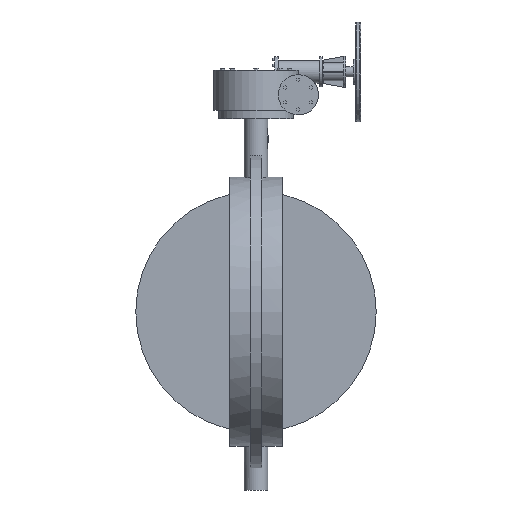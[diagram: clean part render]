
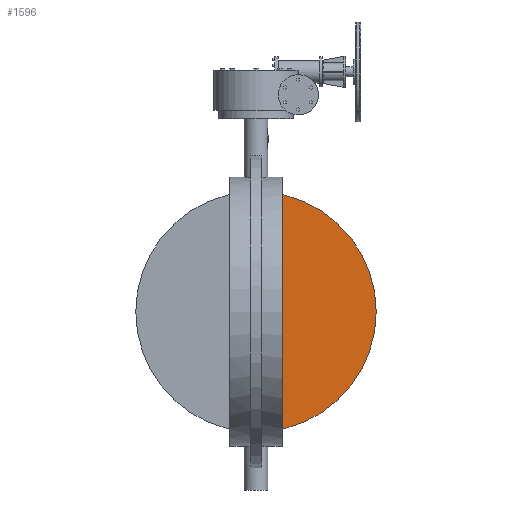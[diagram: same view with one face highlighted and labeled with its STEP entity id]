
A CAD part, front view. The second image highlights one B-rep face of the part: STEP entity #1596.
In plain terms, the highlighted planar face has unit normal (0, -1, 0).
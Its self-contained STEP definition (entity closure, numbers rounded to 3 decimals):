
#1596=ADVANCED_FACE('',(#7580),#7582,.T.);
#7580=FACE_BOUND('',#7581,.T.);
#7581=EDGE_LOOP('',(#11806,#11807));
#7582=PLANE('',#7583);
#7583=AXIS2_PLACEMENT_3D('',#7584,#7585,#7586);
#7584=CARTESIAN_POINT('',(0.,-10.,0.));
#7585=DIRECTION('',(0.,-1.,0.));
#7586=DIRECTION('',(0.,0.,1.));
#11806=ORIENTED_EDGE('',*,*,#14223,.T.);
#11807=ORIENTED_EDGE('',*,*,#14315,.T.);
#14223=EDGE_CURVE('',#15928,#15925,#15929,.T.);
#14315=EDGE_CURVE('',#15925,#15928,#16110,.T.);
#15925=VERTEX_POINT('',#20046);
#15928=VERTEX_POINT('',#20088);
#15929=LINE('',#20089,#20090);
#16110=CIRCLE('',#20574,482.5);
#20046=CARTESIAN_POINT('',(36.142,-10.,-481.144));
#20088=CARTESIAN_POINT('',(36.142,-10.,481.144));
#20089=CARTESIAN_POINT('',(36.142,-10.,481.144));
#20090=VECTOR('',#20091,1.);
#20091=DIRECTION('',(0.,0.,-1.));
#20574=AXIS2_PLACEMENT_3D('',#20575,#20576,#20577);
#20575=CARTESIAN_POINT('',(0.,-10.,0.));
#20576=DIRECTION('',(0.,-1.,0.));
#20577=DIRECTION('',(0.075,0.,-0.997));
